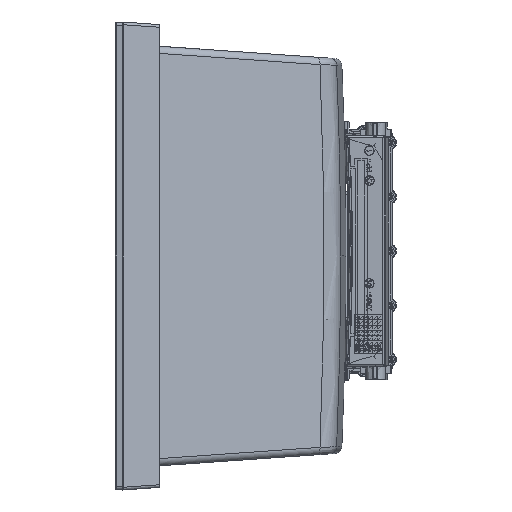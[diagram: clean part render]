
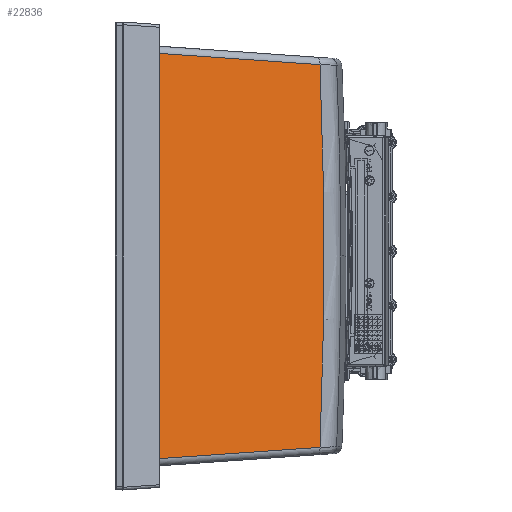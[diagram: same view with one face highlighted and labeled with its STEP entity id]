
A CAD part, left-side view. The second image highlights one B-rep face of the part: STEP entity #22836.
In plain terms, the highlighted planar face has unit normal (-0.906, -0.423, 0).
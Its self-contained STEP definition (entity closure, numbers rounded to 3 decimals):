
#1689 = CARTESIAN_POINT ( 'NONE',  ( 33.314, -28.534, -472.926 ) ) ;
#11053 = VERTEX_POINT ( 'NONE', #57016 ) ;
#22836 = ADVANCED_FACE ( 'NONE', ( #182660 ), #77948, .F. ) ;
#24682 = VECTOR ( 'NONE', #144952, 1000. ) ;
#27363 = CARTESIAN_POINT ( 'NONE',  ( 123.136, -221.16, -45.543 ) ) ;
#32595 = CARTESIAN_POINT ( 'NONE',  ( 123.136, -221.16, -459.457 ) ) ;
#39843 = AXIS2_PLACEMENT_3D ( 'NONE', #63023, #168706, #138777 ) ;
#53794 = AXIS2_PLACEMENT_3D ( 'NONE', #119142, #121111, #74260 ) ;
#57016 = CARTESIAN_POINT ( 'NONE',  ( 25.892, -12.619, -30.961 ) ) ;
#57171 = LINE ( 'NONE', #191795, #24682 ) ;
#62193 = EDGE_CURVE ( 'NONE', #125738, #141686, #165221, .T. ) ;
#63023 = CARTESIAN_POINT ( 'NONE',  ( 21.585, -3.381, -35. ) ) ;
#68138 = EDGE_CURVE ( 'NONE', #141686, #11053, #192458, .T. ) ;
#74260 = DIRECTION ( 'NONE',  ( -0.423, 0.906, 0. ) ) ;
#77948 = PLANE ( 'NONE',  #39843 ) ;
#91394 = LINE ( 'NONE', #1689, #180527 ) ;
#93567 = ORIENTED_EDGE ( 'NONE', *, *, #125748, .T. ) ;
#95039 = VERTEX_POINT ( 'NONE', #194846 ) ;
#111997 = ORIENTED_EDGE ( 'NONE', *, *, #68138, .T. ) ;
#119142 = CARTESIAN_POINT ( 'NONE',  ( -1736.792, 3767.47, -252.5 ) ) ;
#121111 = DIRECTION ( 'NONE',  ( -0.906, -0.423, 0. ) ) ;
#123320 = DIRECTION ( 'NONE',  ( 0.422, -0.904, 0.063 ) ) ;
#125738 = VERTEX_POINT ( 'NONE', #32595 ) ;
#125748 = EDGE_CURVE ( 'NONE', #95039, #125738, #91394, .T. ) ;
#126906 = EDGE_CURVE ( 'NONE', #11053, #95039, #57171, .T. ) ;
#129857 = ORIENTED_EDGE ( 'NONE', *, *, #62193, .T. ) ;
#130666 = DIRECTION ( 'NONE',  ( -0.422, 0.904, 0.063 ) ) ;
#138777 = DIRECTION ( 'NONE',  ( -0.423, 0.906, 0. ) ) ;
#141686 = VERTEX_POINT ( 'NONE', #27363 ) ;
#144952 = DIRECTION ( 'NONE',  ( 0., 0., -1. ) ) ;
#152420 = EDGE_LOOP ( 'NONE', ( #129857, #111997, #191861, #93567 ) ) ;
#165221 = CIRCLE ( 'NONE', #53794, 4405.83 ) ;
#168706 = DIRECTION ( 'NONE',  ( 0.906, 0.423, 0. ) ) ;
#180527 = VECTOR ( 'NONE', #123320, 1000. ) ;
#182660 = FACE_OUTER_BOUND ( 'NONE', #152420, .T. ) ;
#184988 = VECTOR ( 'NONE', #130666, 1000. ) ;
#189525 = CARTESIAN_POINT ( 'NONE',  ( 23.531, -7.555, -30.607 ) ) ;
#191795 = CARTESIAN_POINT ( 'NONE',  ( 25.892, -12.619, -35. ) ) ;
#191861 = ORIENTED_EDGE ( 'NONE', *, *, #126906, .T. ) ;
#192458 = LINE ( 'NONE', #189525, #184988 ) ;
#194846 = CARTESIAN_POINT ( 'NONE',  ( 25.892, -12.619, -474.039 ) ) ;
